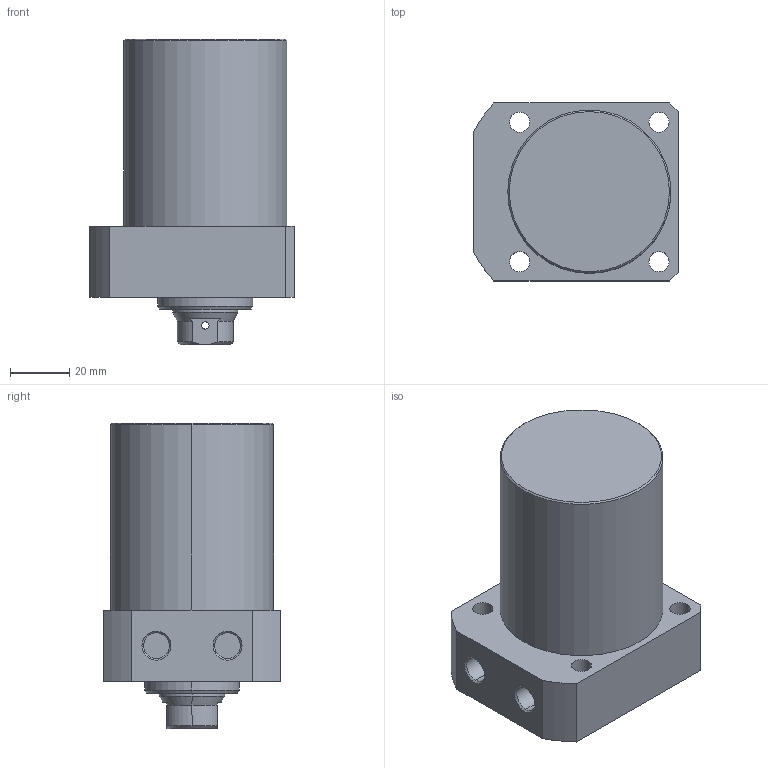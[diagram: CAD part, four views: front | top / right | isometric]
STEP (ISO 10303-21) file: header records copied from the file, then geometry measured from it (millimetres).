
FILE_DESCRIPTION (( 'STEP AP203' ), '1' );
FILE_NAME ('CLLR-055CB-050.STEP', '2019-12-19T07:50:04', ( '' ), ( '' ), 'SwSTEP 2.0', 'SolidWorks 2015', '' );
FILE_SCHEMA (( 'CONFIG_CONTROL_DESIGN' ));
Length unit declared in the file: millimetre
Products named in the file (1): CLLR-055CB-050
Bounding box: 69 x 60 x 103 mm (x, y, z)
Volume: 247274.3 mm3; surface area: 29112.2 mm2
Topology: 1 solids, 1 shells, 69 faces, 163 edges, 102 vertices
Faces by surface type: cylinder 33, plane 19, cone 17
Entity records: 2183 total; most frequent: CARTESIAN_POINT 453, DIRECTION 368, ORIENTED_EDGE 322, EDGE_CURVE 161, AXIS2_PLACEMENT_3D 149, VERTEX_POINT 102, EDGE_LOOP 89, CIRCLE 79
